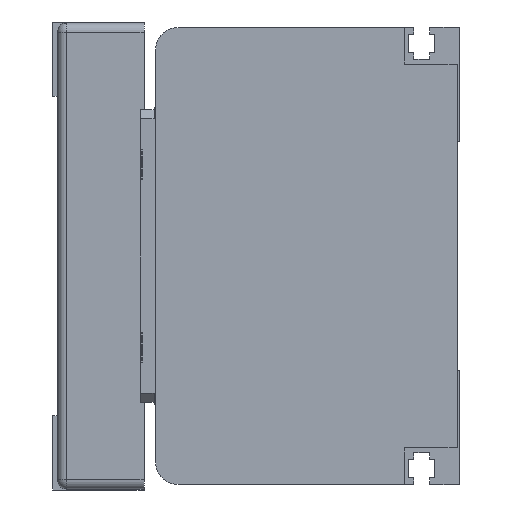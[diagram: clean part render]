
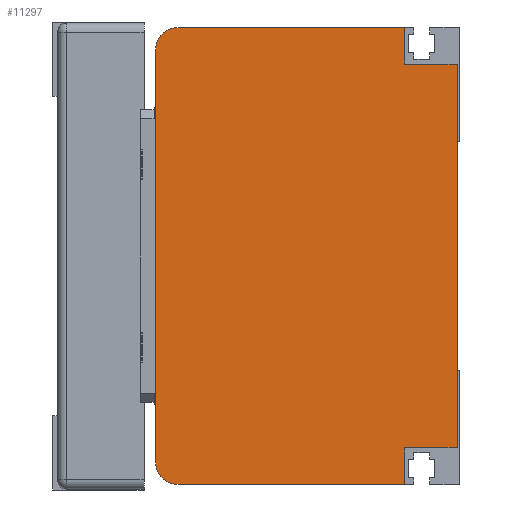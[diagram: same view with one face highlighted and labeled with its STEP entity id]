
A CAD part, left-side view. The second image highlights one B-rep face of the part: STEP entity #11297.
In plain terms, the highlighted planar face has unit normal (-1, 0, 0) as drawn and (0, 0, -1) by its records, which use the part's own axes.
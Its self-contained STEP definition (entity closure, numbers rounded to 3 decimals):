
#685=LINE('',#15816,#1744);
#686=LINE('',#15818,#1745);
#687=LINE('',#15820,#1746);
#688=LINE('',#15824,#1747);
#689=LINE('',#15828,#1748);
#690=LINE('',#15830,#1749);
#691=LINE('',#15832,#1750);
#692=LINE('',#15833,#1751);
#1744=VECTOR('',#13118,8.);
#1745=VECTOR('',#13119,8.);
#1746=VECTOR('',#13120,49.5);
#1747=VECTOR('',#13123,90.);
#1748=VECTOR('',#13126,49.5);
#1749=VECTOR('',#13127,8.);
#1750=VECTOR('',#13128,8.);
#1751=VECTOR('',#13129,98.);
#2759=PLANE('',#12086);
#3334=FACE_OUTER_BOUND('',#4035,.T.);
#4035=EDGE_LOOP('',(#8049,#8050,#8051,#8052,#8053,#8054,#8055,#8056,#8057,
#8058));
#4837=CIRCLE('',#12087,5.);
#4838=CIRCLE('',#12088,5.);
#5127=VERTEX_POINT('',#15814);
#5128=VERTEX_POINT('',#15815);
#5129=VERTEX_POINT('',#15817);
#5130=VERTEX_POINT('',#15819);
#5131=VERTEX_POINT('',#15821);
#5132=VERTEX_POINT('',#15823);
#5133=VERTEX_POINT('',#15825);
#5134=VERTEX_POINT('',#15827);
#5135=VERTEX_POINT('',#15829);
#5136=VERTEX_POINT('',#15831);
#6297=EDGE_CURVE('',#5127,#5128,#685,.T.);
#6298=EDGE_CURVE('',#5128,#5129,#686,.T.);
#6299=EDGE_CURVE('',#5129,#5130,#687,.T.);
#6300=EDGE_CURVE('',#5130,#5131,#4837,.T.);
#6301=EDGE_CURVE('',#5131,#5132,#688,.T.);
#6302=EDGE_CURVE('',#5132,#5133,#4838,.T.);
#6303=EDGE_CURVE('',#5133,#5134,#689,.T.);
#6304=EDGE_CURVE('',#5134,#5135,#690,.T.);
#6305=EDGE_CURVE('',#5135,#5136,#691,.T.);
#6306=EDGE_CURVE('',#5136,#5127,#692,.T.);
#8049=ORIENTED_EDGE('',*,*,#6297,.T.);
#8050=ORIENTED_EDGE('',*,*,#6298,.T.);
#8051=ORIENTED_EDGE('',*,*,#6299,.T.);
#8052=ORIENTED_EDGE('',*,*,#6300,.T.);
#8053=ORIENTED_EDGE('',*,*,#6301,.T.);
#8054=ORIENTED_EDGE('',*,*,#6302,.T.);
#8055=ORIENTED_EDGE('',*,*,#6303,.T.);
#8056=ORIENTED_EDGE('',*,*,#6304,.T.);
#8057=ORIENTED_EDGE('',*,*,#6305,.T.);
#8058=ORIENTED_EDGE('',*,*,#6306,.T.);
#11297=ADVANCED_FACE('',(#3334),#2759,.T.);
#12086=AXIS2_PLACEMENT_3D('',#15813,#13116,#13117);
#12087=AXIS2_PLACEMENT_3D('',#15822,#13121,#13122);
#12088=AXIS2_PLACEMENT_3D('',#15826,#13124,#13125);
#13116=DIRECTION('center_axis',(0.,0.,-1.));
#13117=DIRECTION('ref_axis',(-1.,0.,0.));
#13118=DIRECTION('',(0.,1.,0.));
#13119=DIRECTION('',(-1.,0.,0.));
#13120=DIRECTION('',(0.,1.,0.));
#13121=DIRECTION('center_axis',(0.,0.,-1.));
#13122=DIRECTION('ref_axis',(-1.,0.,0.));
#13123=DIRECTION('',(1.,0.,0.));
#13124=DIRECTION('center_axis',(0.,0.,-1.));
#13125=DIRECTION('ref_axis',(0.,1.,0.));
#13126=DIRECTION('',(0.,-1.,0.));
#13127=DIRECTION('',(-1.,0.,0.));
#13128=DIRECTION('',(0.,-1.,0.));
#13129=DIRECTION('',(-1.,0.,0.));
#15813=CARTESIAN_POINT('Origin',(0.,0.,-1200.));
#15814=CARTESIAN_POINT('',(-9.,-8.,-1200.));
#15815=CARTESIAN_POINT('',(-9.,3.5,-1200.));
#15816=CARTESIAN_POINT('',(-9.,-4.5,-1200.));
#15817=CARTESIAN_POINT('',(-17.,3.5,-1200.));
#15818=CARTESIAN_POINT('',(-9.,3.5,-1200.));
#15819=CARTESIAN_POINT('',(-17.,53.,-1200.));
#15820=CARTESIAN_POINT('',(-17.,3.5,-1200.));
#15821=CARTESIAN_POINT('',(-12.,58.,-1200.));
#15822=CARTESIAN_POINT('Origin',(-12.,53.,-1200.));
#15823=CARTESIAN_POINT('',(78.,58.,-1200.));
#15824=CARTESIAN_POINT('',(-12.,58.,-1200.));
#15825=CARTESIAN_POINT('',(83.,53.,-1200.));
#15826=CARTESIAN_POINT('Origin',(78.,53.,-1200.));
#15827=CARTESIAN_POINT('',(83.,3.5,-1200.));
#15828=CARTESIAN_POINT('',(83.,53.,-1200.));
#15829=CARTESIAN_POINT('',(75.,3.5,-1200.));
#15830=CARTESIAN_POINT('',(83.,3.5,-1200.));
#15831=CARTESIAN_POINT('',(75.,-8.,-1200.));
#15832=CARTESIAN_POINT('',(75.,3.5,-1200.));
#15833=CARTESIAN_POINT('',(82.,-8.,-1200.));
